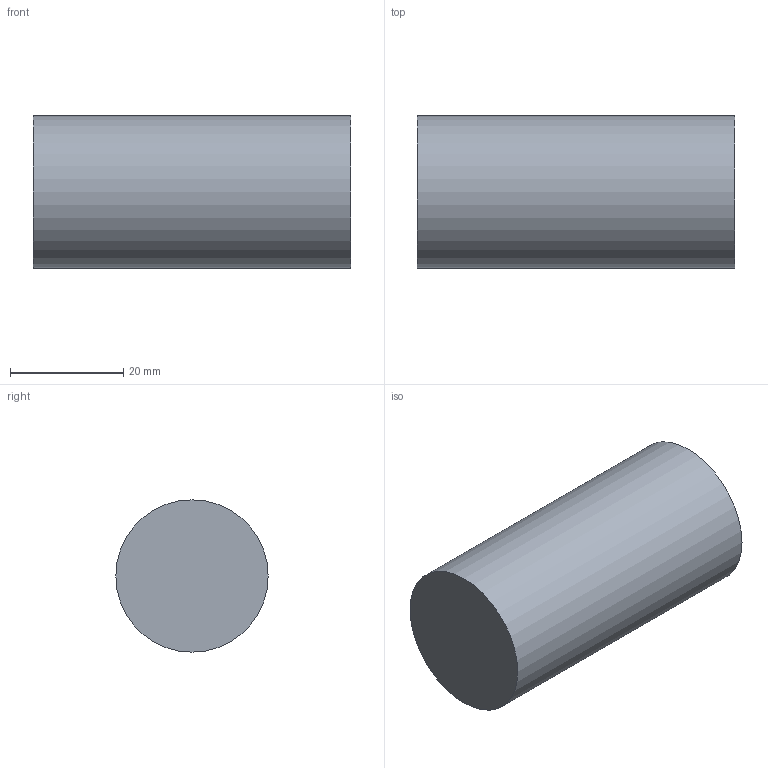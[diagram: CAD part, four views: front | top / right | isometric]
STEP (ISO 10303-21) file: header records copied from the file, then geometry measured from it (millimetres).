
FILE_DESCRIPTION(/* description */ (''),/* implementation_level */ '2;1');
FILE_NAME(/* name */ 'Endkappe 26.9.stp',/* time_stamp */ '2024-03-12T15:51:22+01:00',/* author */ ('peter.csaszar'),/* organization */ (''),/* preprocessor_version */ 'ST-DEVELOPER v20',/* originating_system */ 'Autodesk Inventor 2024',/* authorisation */ '');
FILE_SCHEMA (('AUTOMOTIVE_DESIGN { 1 0 10303 214 3 1 1 }'));
Length unit declared in the file: millimetre
Products named in the file (1): Bauteil1
Bounding box: 56 x 26.9 x 26.9 mm (x, y, z)
Volume: 9585 mm3; surface area: 9754 mm2
Topology: 1 solids, 1 shells, 5 faces, 6 edges, 4 vertices
Faces by surface type: plane 3, cylinder 2
Full cylindrical faces by diameter (mm): 22.9 x1, 26.9 x1
Entity records: 147 total; most frequent: DIRECTION 22, CARTESIAN_POINT 16, ORIENTED_EDGE 12, AXIS2_PLACEMENT_3D 10, EDGE_LOOP 6, EDGE_CURVE 6, FACE_OUTER_BOUND 5, ADVANCED_FACE 5
